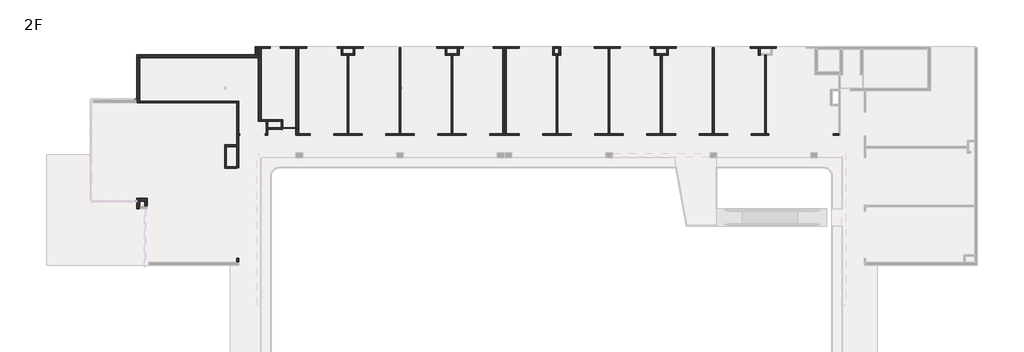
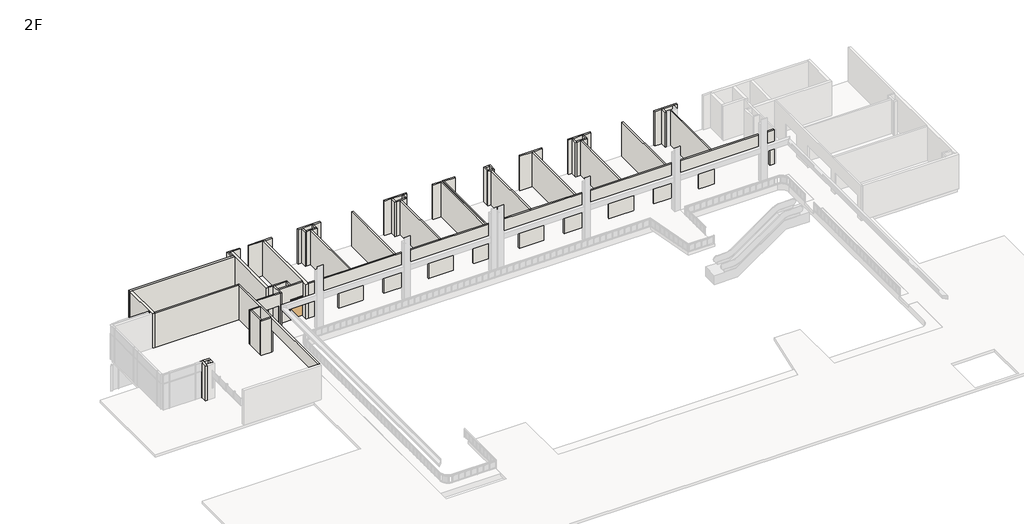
# One storey, part 4 of 6: 52 walls, 2 members, 1 door.
"""IFC4 building model written with IfcOpenShell, lengths in millimetres."""

from ifc_helpers import new_model, si_unit, frame, origin, place, context, project, spatial, polyline, outline, extrude, faceted_brep, transform, mapped, element, save
from components import m_single_flush_d_1200x2150_ee7a6381, rectangular_mullion_50_x_150mm_2bd3e109, rectangular_mullion_50_x_150mm_2578323a

model = new_model("IFC4")

# Units and contexts
model_context = context("Model", 3, world=origin())
ifc_project = project(units=[si_unit("LENGTHUNIT", "METRE", prefix="MILLI")], contexts=[model_context])

# Site, building, storey
site = spatial("IfcSite", under=ifc_project)
building = spatial("IfcBuilding", under=site)
storey = spatial("IfcBuildingStorey", under=building, Name="2F", Elevation=8100.0)

# Door
placement = place(None, origin())
m_single_flush_d_1200x2150_shape = m_single_flush_d_1200x2150_ee7a6381(model_context)
element("IfcDoor", 1, ObjectType="M_Single-Flush : D-1200x2150", at=placement, inside=storey, context=model_context, shape_type="MappedRepresentation", body=[
    mapped(m_single_flush_d_1200x2150_shape, transform((-18037.5865899, 13998.3851347, 8100.0), x_axis=(1.0, 0.0, 0.0), y_axis=(0.0, 1.0, 0.0), z_axis=(0.0, 0.0, 1.0))),
])

# Members
rectangular_mullion_50_x_150mm_shape = rectangular_mullion_50_x_150mm_2bd3e109(model_context)
element("IfcMember", 2, ObjectType="Rectangular Mullion : 50 x 150mm", at=placement, inside=storey, context=model_context, shape_type="MappedRepresentation", body=[
    mapped(rectangular_mullion_50_x_150mm_shape, transform((-31536.0865899, 7552.3851348, 10975.0), x_axis=(1.0, 0.0, 0.0), y_axis=(0.0, 1.0, 0.0), z_axis=(0.0, 0.0, 1.0))),
])
rectangular_mullion_50_x_150mm_2_shape = rectangular_mullion_50_x_150mm_2578323a(model_context)
element("IfcMember", 3, ObjectType="Rectangular Mullion : 50 x 150mm", at=placement, inside=storey, context=model_context, shape_type="MappedRepresentation", body=[
    mapped(rectangular_mullion_50_x_150mm_2_shape, transform((-31687.5865899, 16597.3851347, 11950.0), x_axis=(1.0, 0.0, 0.0), y_axis=(0.0, 1.0, 0.0), z_axis=(0.0, 0.0, 1.0))),
])

# Walls
element("IfcWall", 4, ObjectType="wall-115", at=placement, inside=storey, context=model_context, shape_type="Brep", body=[
    faceted_brep([(-4207.5865899, 21117.3851347, 8100.0), (-4207.5865899, 20487.3851347, 8100.0), (-4207.5865899, 20487.3851347, 11850.0), (-4207.5865899, 21117.3851347, 11850.0), (-4065.5865899, 21117.3851347, 8100.0), (-4065.5865899, 21117.3851347, 11850.0), (-4065.5865899, 20629.3851347, 11850.0), (-4065.5865899, 20487.3851347, 11850.0), (-4065.5865899, 20487.3851347, 8100.0), (-4065.5865899, 20629.3851347, 8100.0)], [[[0, 1, 2, 3]], [[4, 5, 6, 7, 8, 9]], [[1, 0, 4, 9, 8]], [[3, 2, 7, 6, 5]], [[2, 1, 8, 7]], [[0, 3, 5, 4]]]),
])
element("IfcWall", 5, ObjectType="wall-115", at=placement, inside=storey, context=model_context, shape_type="Brep", body=[
    faceted_brep([(-4065.5865899, 20487.3851347, 8100.0), (-3665.0865899, 20487.3851347, 8100.0), (-3523.0865899, 20487.3851347, 8100.0), (-2977.5865899, 20487.3851347, 8100.0), (-2977.5865899, 20487.3851347, 11850.0), (-3523.0865899, 20487.3851347, 11850.0), (-3665.0865899, 20487.3851347, 11850.0), (-4065.5865899, 20487.3851347, 11850.0), (-4065.5865899, 20629.3851347, 8100.0), (-4065.5865899, 20629.3851347, 11850.0), (-3119.5865899, 20629.3851347, 11850.0), (-2977.5865899, 20629.3851347, 11850.0), (-2977.5865899, 20629.3851347, 8100.0), (-3119.5865899, 20629.3851347, 8100.0)], [[[0, 1, 2, 3, 4, 5, 6, 7]], [[8, 9, 10, 11, 12, 13]], [[3, 2, 1, 0, 8, 13, 12]], [[7, 6, 5, 4, 11, 10, 9]], [[0, 7, 9, 8]], [[4, 3, 12, 11]]]),
])
element("IfcWall", 6, ObjectType="wall-115", at=placement, inside=storey, context=model_context, shape_type="SweptSolid", body=[
    extrude(outline(polyline([(-2977.5865899, 21117.3851347), (-2977.5865899, 20629.3851347), (-3119.5865899, 20629.3851347), (-3119.5865899, 21117.3851347), (-2977.5865899, 21117.3851347)])), frame((0.0, 0.0, 8100.0), z_axis=(0.0, 0.0, 1.0), x_axis=(1.0, 0.0, 0.0)), (0.0, 0.0, 1.0), 3750.0),
])
element("IfcWall", 7, ObjectType="wall-115", at=placement, inside=storey, context=model_context, shape_type="SweptSolid", body=[
    extrude(outline(polyline([(-3665.0865899, 13527.3851347), (-3665.0865899, 20487.3851347), (-3523.0865899, 20487.3851347), (-3523.0865899, 13527.3851347), (-3665.0865899, 13527.3851347)])), frame((0.0, 0.0, 8100.0), z_axis=(0.0, 0.0, 1.0), x_axis=(1.0, 0.0, 0.0)), (0.0, 0.0, 1.0), 3750.0),
])
element("IfcWall", 8, ObjectType="wall-115", at=placement, inside=storey, context=model_context, shape_type="SweptSolid", body=[
    extrude(outline(polyline([(-8280.0865899, 13527.3851347), (-8280.0865899, 21132.3851347), (-8138.0865899, 21132.3851347), (-8138.0865899, 13527.3851347), (-8280.0865899, 13527.3851347)])), frame((0.0, 0.0, 8100.0), z_axis=(0.0, 0.0, 1.0), x_axis=(1.0, 0.0, 0.0)), (0.0, 0.0, 1.0), 3750.0),
])
element("IfcWall", 9, ObjectType="wall-115", at=placement, inside=storey, context=model_context, shape_type="Brep", body=[
    faceted_brep([(-13437.5865899, 21117.3851347, 8100.0), (-13437.5865899, 20487.3851347, 8100.0), (-13437.5865899, 20487.3851347, 11850.0), (-13437.5865899, 21117.3851347, 11850.0), (-13295.5865899, 21117.3851347, 8100.0), (-13295.5865899, 21117.3851347, 11850.0), (-13295.5865899, 20629.3851347, 11850.0), (-13295.5865899, 20487.3851347, 11850.0), (-13295.5865899, 20487.3851347, 8100.0), (-13295.5865899, 20629.3851347, 8100.0)], [[[0, 1, 2, 3]], [[4, 5, 6, 7, 8, 9]], [[1, 0, 4, 9, 8]], [[3, 2, 7, 6, 5]], [[2, 1, 8, 7]], [[0, 3, 5, 4]]]),
])
element("IfcWall", 10, ObjectType="wall-115", at=placement, inside=storey, context=model_context, shape_type="Brep", body=[
    faceted_brep([(-13295.5865899, 20487.3851347, 8100.0), (-12895.0865899, 20487.3851347, 8100.0), (-12753.0865899, 20487.3851347, 8100.0), (-12207.5865899, 20487.3851347, 8100.0), (-12207.5865899, 20487.3851347, 11850.0), (-12753.0865899, 20487.3851347, 11850.0), (-12895.0865899, 20487.3851347, 11850.0), (-13295.5865899, 20487.3851347, 11850.0), (-13295.5865899, 20629.3851347, 8100.0), (-13295.5865899, 20629.3851347, 11850.0), (-12349.5865899, 20629.3851347, 11850.0), (-12207.5865899, 20629.3851347, 11850.0), (-12207.5865899, 20629.3851347, 8100.0), (-12349.5865899, 20629.3851347, 8100.0)], [[[0, 1, 2, 3, 4, 5, 6, 7]], [[8, 9, 10, 11, 12, 13]], [[3, 2, 1, 0, 8, 13, 12]], [[7, 6, 5, 4, 11, 10, 9]], [[0, 7, 9, 8]], [[4, 3, 12, 11]]]),
])
element("IfcWall", 11, ObjectType="wall-115", at=placement, inside=storey, context=model_context, shape_type="SweptSolid", body=[
    extrude(outline(polyline([(-12207.5865899, 21117.3851347), (-12207.5865899, 20629.3851347), (-12349.5865899, 20629.3851347), (-12349.5865899, 21117.3851347), (-12207.5865899, 21117.3851347)])), frame((0.0, 0.0, 8100.0), z_axis=(0.0, 0.0, 1.0), x_axis=(1.0, 0.0, 0.0)), (0.0, 0.0, 1.0), 3750.0),
])
element("IfcWall", 12, ObjectType="wall-115", at=placement, inside=storey, context=model_context, shape_type="SweptSolid", body=[
    extrude(outline(polyline([(-12895.0865899, 13527.3851347), (-12895.0865899, 20487.3851347), (-12753.0865899, 20487.3851347), (-12753.0865899, 13527.3851347), (-12895.0865899, 13527.3851347)])), frame((0.0, 0.0, 8100.0), z_axis=(0.0, 0.0, 1.0), x_axis=(1.0, 0.0, 0.0)), (0.0, 0.0, 1.0), 3750.0),
])
element("IfcWall", 13, ObjectType="wall-115", at=placement, inside=storey, context=model_context, shape_type="Brep", body=[
    faceted_brep([(-22525.5865899, 2142.3851347, 8100.0), (-22525.5865899, 2497.4013413, 8100.0), (-22525.5865899, 2497.4013413, 10500.0), (-22525.5865899, 10497.4013413, 10500.0), (-22525.5865899, 10497.4013413, 8100.0), (-22525.5865899, 13382.3851347, 8100.0), (-22525.5865899, 13524.3851347, 8100.0), (-22525.5865899, 16422.3851347, 8100.0), (-22525.5865899, 16422.3851347, 11850.0), (-22525.5865899, 13524.3851347, 11850.0), (-22525.5865899, 13382.3851347, 11850.0), (-22525.5865899, 2142.3851347, 11850.0), (-22667.5865899, 2497.4013413, 10500.0), (-22667.5865899, 2497.4013413, 8100.0), (-22667.5865899, 2142.3851347, 8100.0), (-22667.5865899, 2142.3851347, 11850.0), (-22667.5865899, 10482.4013413, 11850.0), (-22667.5865899, 10624.4013413, 11850.0), (-22667.5865899, 12397.3851348, 11850.0), (-22667.5865899, 12539.3851348, 11850.0), (-22667.5865899, 16280.3851347, 11850.0), (-22667.5865899, 16422.3851347, 11850.0), (-22667.5865899, 16422.3851347, 8100.0), (-22667.5865899, 16280.3851347, 8100.0), (-22667.5865899, 12539.3851348, 8100.0), (-22667.5865899, 12397.3851348, 8100.0), (-22667.5865899, 10624.4013413, 8100.0), (-22667.5865899, 10497.4013413, 8100.0), (-22667.5865899, 10497.4013413, 10500.0)], [[[0, 1, 2, 3, 4, 5, 6, 7, 8, 9, 10, 11]], [[12, 13, 14, 15, 16, 17, 18, 19, 20, 21, 22, 23, 24, 25, 26, 27, 28]], [[14, 13, 1, 0]], [[27, 26, 25, 24, 23, 22, 7, 6, 5, 4]], [[11, 10, 9, 8, 21, 20, 19, 18, 17, 16, 15]], [[8, 7, 22, 21]], [[0, 11, 15, 14]], [[3, 2, 12, 28]], [[4, 3, 28, 27]], [[2, 1, 13, 12]]]),
])
element("IfcWall", 14, ObjectType="wall-115", at=placement, inside=storey, context=model_context, shape_type="Brep", body=[
    faceted_brep([(-22667.5865899, 10624.4013413, 8100.0), (-23605.5865898, 10624.4013413, 8100.0), (-23747.5865898, 10624.4013413, 8100.0), (-23747.5865898, 10624.4013413, 11850.0), (-23605.5865898, 10624.4013413, 11850.0), (-22667.5865899, 10624.4013413, 11850.0), (-22667.5865899, 10482.4013413, 8100.0), (-22667.5865899, 10482.4013413, 11850.0), (-23747.5865898, 10482.4013413, 11850.0), (-23747.5865898, 10482.4013413, 8100.0), (-22667.5865899, 10497.4013413, 8100.0)], [[[0, 1, 2, 3, 4, 5]], [[6, 7, 8, 9]], [[2, 1, 0, 10, 6, 9]], [[5, 4, 3, 8, 7]], [[3, 2, 9, 8]], [[0, 5, 7, 6, 10]]]),
])
element("IfcWall", 15, ObjectType="wall-115", at=placement, inside=storey, context=model_context, shape_type="SweptSolid", body=[
    extrude(outline(polyline([(-23605.5865898, 12397.3851348), (-23605.5865898, 10624.4013413), (-23747.5865898, 10624.4013413), (-23747.5865898, 12397.3851348), (-23605.5865898, 12397.3851348)])), frame((0.0, 0.0, 8100.0), z_axis=(0.0, 0.0, 1.0), x_axis=(1.0, 0.0, 0.0)), (0.0, 0.0, 1.0), 3750.0),
])
element("IfcWall", 16, ObjectType="wall-115", at=placement, inside=storey, context=model_context, shape_type="Brep", body=[
    faceted_brep([(-22667.5865899, 12539.3851348, 8100.0), (-23747.5865898, 12539.3851348, 8100.0), (-23747.5865898, 12539.3851348, 11850.0), (-22667.5865899, 12539.3851348, 11850.0), (-22667.5865899, 12397.3851348, 8100.0), (-22667.5865899, 12397.3851348, 11850.0), (-23605.5865898, 12397.3851348, 11850.0), (-23747.5865898, 12397.3851348, 11850.0), (-23747.5865898, 12397.3851348, 8100.0), (-23605.5865898, 12397.3851348, 8100.0)], [[[0, 1, 2, 3]], [[4, 5, 6, 7, 8, 9]], [[1, 0, 4, 9, 8]], [[3, 2, 7, 6, 5]], [[2, 1, 8, 7]], [[0, 3, 5, 4]]]),
])
element("IfcWall", 17, ObjectType="wall-115", at=placement, inside=storey, context=model_context, shape_type="Brep", body=[
    faceted_brep([(-19940.5865899, 13382.3851347, 8100.0), (-19940.5865899, 13927.3851347, 8100.0), (-19940.5865899, 14069.3851347, 8100.0), (-19940.5865899, 14645.3851347, 8100.0), (-19940.5865899, 14645.3851347, 11850.0), (-19940.5865899, 14069.3851347, 11850.0), (-19940.5865899, 13927.3851347, 11850.0), (-19940.5865899, 13382.3851347, 11850.0), (-20082.5865899, 13382.3851347, 8100.0), (-20082.5865899, 13382.3851347, 11850.0), (-20082.5865899, 13524.3851347, 11850.0), (-20082.5865899, 14645.3851347, 11850.0), (-20082.5865899, 14645.3851347, 8100.0), (-20082.5865899, 13524.3851347, 8100.0)], [[[0, 1, 2, 3, 4, 5, 6, 7]], [[8, 9, 10, 11, 12, 13]], [[3, 2, 1, 0, 8, 13, 12]], [[7, 6, 5, 4, 11, 10, 9]], [[0, 7, 9, 8]], [[4, 3, 12, 11]]]),
])
element("IfcWall", 18, ObjectType="wall-115", at=placement, inside=storey, context=model_context, shape_type="SweptSolid", body=[
    extrude(outline(polyline([(24099.9134101, 13527.3851347), (24099.9134101, 20487.3851347), (24241.9134101, 20487.3851347), (24241.9134101, 13527.3851347), (24099.9134101, 13527.3851347)])), frame((0.0, 0.0, 8100.0), z_axis=(0.0, 0.0, 1.0), x_axis=(1.0, 0.0, 0.0)), (0.0, 0.0, 1.0), 3750.0),
])
element("IfcWall", 19, ObjectType="wall-115", at=placement, inside=storey, context=model_context, shape_type="SweptSolid", body=[
    extrude(outline(polyline([(19484.9134101, 13527.3851347), (19484.9134101, 21132.3851347), (19626.9134101, 21132.3851347), (19626.9134101, 13527.3851347), (19484.9134101, 13527.3851347)])), frame((0.0, 0.0, 8100.0), z_axis=(0.0, 0.0, 1.0), x_axis=(1.0, 0.0, 0.0)), (0.0, 0.0, 1.0), 3750.0),
])
element("IfcWall", 20, ObjectType="wall-115", at=placement, inside=storey, context=model_context, shape_type="SweptSolid", body=[
    extrude(outline(polyline([(14869.9134101, 13527.3851347), (14869.9134101, 20487.3851347), (15011.9134101, 20487.3851347), (15011.9134101, 13527.3851347), (14869.9134101, 13527.3851347)])), frame((0.0, 0.0, 8100.0), z_axis=(0.0, 0.0, 1.0), x_axis=(1.0, 0.0, 0.0)), (0.0, 0.0, 1.0), 3750.0),
])
element("IfcWall", 21, ObjectType="wall-115", at=placement, inside=storey, context=model_context, shape_type="SweptSolid", body=[
    extrude(outline(polyline([(10254.9134101, 13527.3851347), (10254.9134101, 21117.3851347), (10396.9134101, 21117.3851347), (10396.9134101, 13527.3851347), (10254.9134101, 13527.3851347)])), frame((0.0, 0.0, 8100.0), z_axis=(0.0, 0.0, 1.0), x_axis=(1.0, 0.0, 0.0)), (0.0, 0.0, 1.0), 3750.0),
])
element("IfcWall", 22, ObjectType="wall-115", at=placement, inside=storey, context=model_context, shape_type="SweptSolid", body=[
    extrude(outline(polyline([(5639.9134101, 13527.3851347), (5639.9134101, 20487.3851347), (5781.9134101, 20487.3851347), (5781.9134101, 13527.3851347), (5639.9134101, 13527.3851347)])), frame((0.0, 0.0, 8100.0), z_axis=(0.0, 0.0, 1.0), x_axis=(1.0, 0.0, 0.0)), (0.0, 0.0, 1.0), 3750.0),
])
element("IfcWall", 23, ObjectType="wall-115", at=placement, inside=storey, context=model_context, shape_type="Brep", body=[
    faceted_brep([(1082.4134101, 21259.3851347, 8100.0), (1082.4134101, 13527.3851347, 8100.0), (1082.4134101, 13527.3851347, 11850.0), (1082.4134101, 21259.3851347, 11850.0), (1224.4134101, 21259.3851347, 8100.0), (1224.4134101, 21259.3851347, 11850.0), (1224.4134101, 21117.3851347, 11850.0), (1224.4134101, 13527.3851347, 11850.0), (1224.4134101, 13527.3851347, 8100.0), (1224.4134101, 21117.3851347, 8100.0)], [[[0, 1, 2, 3]], [[4, 5, 6, 7, 8, 9]], [[1, 0, 4, 9, 8]], [[3, 2, 7, 6, 5]], [[0, 3, 5, 4]], [[2, 1, 8, 7]]]),
])
element("IfcWall", 24, ObjectType="wall-115", at=placement, inside=storey, context=model_context, shape_type="Brep", body=[
    faceted_brep([(14327.4134101, 21117.3851347, 8100.0), (14327.4134101, 20487.3851347, 8100.0), (14327.4134101, 20487.3851347, 11850.0), (14327.4134101, 21117.3851347, 11850.0), (14469.4134101, 21117.3851347, 8100.0), (14469.4134101, 21117.3851347, 11850.0), (14469.4134101, 20629.3851347, 11850.0), (14469.4134101, 20487.3851347, 11850.0), (14469.4134101, 20487.3851347, 8100.0), (14469.4134101, 20629.3851347, 8100.0)], [[[0, 1, 2, 3]], [[4, 5, 6, 7, 8, 9]], [[1, 0, 4, 9, 8]], [[3, 2, 7, 6, 5]], [[2, 1, 8, 7]], [[0, 3, 5, 4]]]),
])
element("IfcWall", 25, ObjectType="wall-115", at=placement, inside=storey, context=model_context, shape_type="Brep", body=[
    faceted_brep([(14469.4134101, 20487.3851347, 8100.0), (14869.9134101, 20487.3851347, 8100.0), (15011.9134101, 20487.3851347, 8100.0), (15557.4134101, 20487.3851347, 8100.0), (15557.4134101, 20487.3851347, 11850.0), (15011.9134101, 20487.3851347, 11850.0), (14869.9134101, 20487.3851347, 11850.0), (14469.4134101, 20487.3851347, 11850.0), (14469.4134101, 20629.3851347, 8100.0), (14469.4134101, 20629.3851347, 11850.0), (15415.4134101, 20629.3851347, 11850.0), (15557.4134101, 20629.3851347, 11850.0), (15557.4134101, 20629.3851347, 8100.0), (15415.4134101, 20629.3851347, 8100.0)], [[[0, 1, 2, 3, 4, 5, 6, 7]], [[8, 9, 10, 11, 12, 13]], [[3, 2, 1, 0, 8, 13, 12]], [[7, 6, 5, 4, 11, 10, 9]], [[4, 3, 12, 11]], [[0, 7, 9, 8]]]),
])
element("IfcWall", 26, ObjectType="wall-115", at=placement, inside=storey, context=model_context, shape_type="SweptSolid", body=[
    extrude(outline(polyline([(15557.4134101, 21117.3851347), (15557.4134101, 20629.3851347), (15415.4134101, 20629.3851347), (15415.4134101, 21117.3851347), (15557.4134101, 21117.3851347)])), frame((0.0, 0.0, 8100.0), z_axis=(0.0, 0.0, 1.0), x_axis=(1.0, 0.0, 0.0)), (0.0, 0.0, 1.0), 3750.0),
])
element("IfcWall", 27, ObjectType="wall-115", at=placement, inside=storey, context=model_context, shape_type="Brep", body=[
    faceted_brep([(23557.4134101, 21117.3851347, 8100.0), (23557.4134101, 20487.3851347, 8100.0), (23557.4134101, 20487.3851347, 11850.0), (23557.4134101, 21117.3851347, 11850.0), (23699.4134101, 21117.3851347, 8100.0), (23699.4134101, 21117.3851347, 11850.0), (23699.4134101, 20629.3851347, 11850.0), (23699.4134101, 20487.3851347, 11850.0), (23699.4134101, 20487.3851347, 8100.0), (23699.4134101, 20629.3851347, 8100.0)], [[[0, 1, 2, 3]], [[4, 5, 6, 7, 8, 9]], [[1, 0, 4, 9, 8]], [[3, 2, 7, 6, 5]], [[2, 1, 8, 7]], [[0, 3, 5, 4]]]),
])
element("IfcWall", 28, ObjectType="wall-115", at=placement, inside=storey, context=model_context, shape_type="Brep", body=[
    faceted_brep([(5334.9134101, 20487.3851347, 8100.0), (5639.9134101, 20487.3851347, 8100.0), (5781.9134101, 20487.3851347, 8100.0), (6014.9134101, 20487.3851347, 8100.0), (6014.9134101, 20487.3851347, 11850.0), (5781.9134101, 20487.3851347, 11850.0), (5639.9134101, 20487.3851347, 11850.0), (5334.9134101, 20487.3851347, 11850.0), (5334.9134101, 20629.3851347, 8100.0), (5334.9134101, 20629.3851347, 11850.0), (5476.9134101, 20629.3851347, 11850.0), (5872.9134101, 20629.3851347, 11850.0), (6014.9134101, 20629.3851347, 11850.0), (6014.9134101, 20629.3851347, 8100.0), (5872.9134101, 20629.3851347, 8100.0), (5476.9134101, 20629.3851347, 8100.0)], [[[0, 1, 2, 3, 4, 5, 6, 7]], [[8, 9, 10, 11, 12, 13, 14, 15]], [[3, 2, 1, 0, 8, 15, 14, 13]], [[7, 6, 5, 4, 12, 11, 10, 9]], [[0, 7, 9, 8]], [[4, 3, 13, 12]]]),
])
element("IfcWall", 29, ObjectType="wall-115", at=placement, inside=storey, context=model_context, shape_type="Brep", body=[
    faceted_brep([(892.4134101, 21259.3851347, 8100.0), (892.4134101, 21117.3851347, 8100.0), (892.4134101, 13527.3851347, 8100.0), (892.4134101, 13527.3851347, 11850.0), (892.4134101, 21117.3851347, 11850.0), (892.4134101, 21259.3851347, 11850.0), (1034.4134101, 21259.3851347, 8100.0), (1034.4134101, 21259.3851347, 11850.0), (1034.4134101, 13527.3851347, 11850.0), (1034.4134101, 13527.3851347, 8100.0)], [[[0, 1, 2, 3, 4, 5]], [[6, 7, 8, 9]], [[2, 1, 0, 6, 9]], [[5, 4, 3, 8, 7]], [[0, 5, 7, 6]], [[3, 2, 9, 8]]]),
])
element("IfcWall", 30, ObjectType="wall-115", at=placement, inside=storey, context=model_context, shape_type="Brep", body=[
    faceted_brep([(22905.8361451, 13385.3851347, 8100.0), (24472.4134101, 13385.3851347, 8100.0), (24472.4134101, 13385.3851347, 10500.0), (30187.4134101, 13385.3851347, 10500.0), (30187.4134101, 13385.3851347, 8100.0), (30657.4134101, 13385.3851347, 8100.0), (30657.4134101, 13385.3851347, 11850.0), (-17192.5865899, 13385.3851347, 11850.0), (-17192.5865899, 13385.3851347, 8100.0), (-16171.0093248, 13385.3851347, 8100.0), (-16171.0093248, 13385.3851347, 10500.0), (-14089.1638549, 13385.3851347, 10500.0), (-14089.1638549, 13385.3851347, 8100.0), (-11556.0093248, 13385.3851347, 8100.0), (-11556.0093248, 13385.3851347, 10500.0), (-9474.1638549, 13385.3851347, 10500.0), (-9474.1638549, 13385.3851347, 8100.0), (-6941.0093248, 13385.3851347, 8100.0), (-6941.0093248, 13385.3851347, 10500.0), (-4859.1638549, 13385.3851347, 10500.0), (-4859.1638549, 13385.3851347, 8100.0), (-2326.0093248, 13385.3851347, 8100.0), (-2326.0093248, 13385.3851347, 10500.0), (-244.1638549, 13385.3851347, 10500.0), (-244.1638549, 13385.3851347, 8100.0), (2363.9906752, 13385.3851347, 8100.0), (2363.9906752, 13385.3851347, 10500.0), (4445.8361451, 13385.3851347, 10500.0), (4445.8361451, 13385.3851347, 8100.0), (6978.9906752, 13385.3851347, 8100.0), (6978.9906752, 13385.3851347, 10500.0), (9060.8361451, 13385.3851347, 10500.0), (9060.8361451, 13385.3851347, 8100.0), (11593.9906752, 13385.3851347, 8100.0), (11593.9906752, 13385.3851347, 10500.0), (13675.8361451, 13385.3851347, 10500.0), (13675.8361451, 13385.3851347, 8100.0), (16208.9906752, 13385.3851347, 8100.0), (16208.9906752, 13385.3851347, 10500.0), (18290.8361451, 13385.3851347, 10500.0), (18290.8361451, 13385.3851347, 8100.0), (20823.9906752, 13385.3851347, 8100.0), (20823.9906752, 13385.3851347, 10500.0), (22905.8361451, 13385.3851347, 10500.0), (24472.4134101, 13527.3851347, 10500.0), (24472.4134101, 13527.3851347, 8100.0), (24241.9134101, 13527.3851347, 8100.0), (24099.9134101, 13527.3851347, 8100.0), (22905.8361451, 13527.3851347, 8100.0), (22905.8361451, 13527.3851347, 10500.0), (20823.9906752, 13527.3851347, 10500.0), (20823.9906752, 13527.3851347, 8100.0), (19626.9134101, 13527.3851347, 8100.0), (19484.9134101, 13527.3851347, 8100.0), (18290.8361451, 13527.3851347, 8100.0), (18290.8361451, 13527.3851347, 10500.0), (16208.9906752, 13527.3851347, 10500.0), (16208.9906752, 13527.3851347, 8100.0), (15011.9134101, 13527.3851347, 8100.0), (14869.9134101, 13527.3851347, 8100.0), (13675.8361451, 13527.3851347, 8100.0), (13675.8361451, 13527.3851347, 10500.0), (11593.9906752, 13527.3851347, 10500.0), (11593.9906752, 13527.3851347, 8100.0), (10396.9134101, 13527.3851347, 8100.0), (10254.9134101, 13527.3851347, 8100.0), (9060.8361451, 13527.3851347, 8100.0), (9060.8361451, 13527.3851347, 10500.0), (6978.9906752, 13527.3851347, 10500.0), (6978.9906752, 13527.3851347, 8100.0), (5781.9134101, 13527.3851347, 8100.0), (5639.9134101, 13527.3851347, 8100.0), (4445.8361451, 13527.3851347, 8100.0), (4445.8361451, 13527.3851347, 10500.0), (2363.9906752, 13527.3851347, 10500.0), (2363.9906752, 13527.3851347, 8100.0), (1224.4134101, 13527.3851347, 8100.0), (1082.4134101, 13527.3851347, 8100.0), (1034.4134101, 13527.3851347, 8100.0), (892.4134101, 13527.3851347, 8100.0), (-244.1638549, 13527.3851347, 8100.0), (-244.1638549, 13527.3851347, 10500.0), (-2326.0093248, 13527.3851347, 10500.0), (-2326.0093248, 13527.3851347, 8100.0), (-3523.0865899, 13527.3851347, 8100.0), (-3665.0865899, 13527.3851347, 8100.0), (-4859.1638549, 13527.3851347, 8100.0), (-4859.1638549, 13527.3851347, 10500.0), (-6941.0093248, 13527.3851347, 10500.0), (-6941.0093248, 13527.3851347, 8100.0), (-8138.0865899, 13527.3851347, 8100.0), (-8280.0865899, 13527.3851347, 8100.0), (-9474.1638549, 13527.3851347, 8100.0), (-9474.1638549, 13527.3851347, 10500.0), (-11556.0093248, 13527.3851347, 10500.0), (-11556.0093248, 13527.3851347, 8100.0), (-12753.0865899, 13527.3851347, 8100.0), (-12895.0865899, 13527.3851347, 8100.0), (-14089.1638549, 13527.3851347, 8100.0), (-14089.1638549, 13527.3851347, 10500.0), (-16171.0093248, 13527.3851347, 10500.0), (-16171.0093248, 13527.3851347, 8100.0), (-17192.5865899, 13527.3851347, 8100.0), (-17192.5865899, 13527.3851347, 11850.0), (-12895.0865899, 13527.3851347, 11850.0), (-12753.0865899, 13527.3851347, 11850.0), (-8280.0865899, 13527.3851347, 11850.0), (-8138.0865899, 13527.3851347, 11850.0), (-3665.0865899, 13527.3851347, 11850.0), (-3523.0865899, 13527.3851347, 11850.0), (892.4134101, 13527.3851347, 11850.0), (1034.4134101, 13527.3851347, 11850.0), (1082.4134101, 13527.3851347, 11850.0), (1224.4134101, 13527.3851347, 11850.0), (5639.9134101, 13527.3851347, 11850.0), (5781.9134101, 13527.3851347, 11850.0), (10254.9134101, 13527.3851347, 11850.0), (10396.9134101, 13527.3851347, 11850.0), (14869.9134101, 13527.3851347, 11850.0), (15011.9134101, 13527.3851347, 11850.0), (19484.9134101, 13527.3851347, 11850.0), (19626.9134101, 13527.3851347, 11850.0), (24099.9134101, 13527.3851347, 11850.0), (24241.9134101, 13527.3851347, 11850.0), (30657.4134101, 13527.3851347, 11850.0), (30657.4134101, 13527.3851347, 8100.0), (30187.4134101, 13527.3851347, 8100.0), (30187.4134101, 13527.3851347, 10500.0)], [[[0, 1, 2, 3, 4, 5, 6, 7, 8, 9, 10, 11, 12, 13, 14, 15, 16, 17, 18, 19, 20, 21, 22, 23, 24, 25, 26, 27, 28, 29, 30, 31, 32, 33, 34, 35, 36, 37, 38, 39, 40, 41, 42, 43]], [[44, 45, 46, 47, 48, 49, 50, 51, 52, 53, 54, 55, 56, 57, 58, 59, 60, 61, 62, 63, 64, 65, 66, 67, 68, 69, 70, 71, 72, 73, 74, 75, 76, 77, 78, 79, 80, 81, 82, 83, 84, 85, 86, 87, 88, 89, 90, 91, 92, 93, 94, 95, 96, 97, 98, 99, 100, 101, 102, 103, 104, 105, 106, 107, 108, 109, 110, 111, 112, 113, 114, 115, 116, 117, 118, 119, 120, 121, 122, 123, 124, 125, 126, 127]], [[102, 101, 9, 8]], [[92, 91, 90, 89, 17, 16]], [[98, 97, 96, 95, 13, 12]], [[86, 85, 84, 83, 21, 20]], [[80, 79, 78, 77, 76, 75, 25, 24]], [[72, 71, 70, 69, 29, 28]], [[66, 65, 64, 63, 33, 32]], [[60, 59, 58, 57, 37, 36]], [[54, 53, 52, 51, 41, 40]], [[48, 47, 46, 45, 1, 0]], [[126, 125, 5, 4]], [[7, 6, 124, 123, 122, 121, 120, 119, 118, 117, 116, 115, 114, 113, 112, 111, 110, 109, 108, 107, 106, 105, 104, 103]], [[6, 5, 125, 124]], [[8, 7, 103, 102]], [[15, 14, 94, 93]], [[16, 15, 93, 92]], [[14, 13, 95, 94]], [[11, 10, 100, 99]], [[12, 11, 99, 98]], [[10, 9, 101, 100]], [[19, 18, 88, 87]], [[20, 19, 87, 86]], [[18, 17, 89, 88]], [[23, 22, 82, 81]], [[24, 23, 81, 80]], [[22, 21, 83, 82]], [[27, 26, 74, 73]], [[28, 27, 73, 72]], [[26, 25, 75, 74]], [[31, 30, 68, 67]], [[32, 31, 67, 66]], [[30, 29, 69, 68]], [[35, 34, 62, 61]], [[36, 35, 61, 60]], [[34, 33, 63, 62]], [[39, 38, 56, 55]], [[40, 39, 55, 54]], [[38, 37, 57, 56]], [[43, 42, 50, 49]], [[0, 43, 49, 48]], [[42, 41, 51, 50]], [[3, 2, 44, 127]], [[4, 3, 127, 126]], [[2, 1, 45, 44]]]),
])
element("IfcWall", 31, ObjectType="wall-115", at=placement, inside=storey, context=model_context, shape_type="SweptSolid", body=[
    extrude(outline(polyline([(-22667.5865899, 16280.3851347), (-31292.5865899, 16280.3851347), (-31292.5865899, 16422.3851347), (-22667.5865899, 16422.3851347), (-22667.5865899, 16280.3851347)])), frame((0.0, 0.0, 8100.0), z_axis=(0.0, 0.0, 1.0), x_axis=(1.0, 0.0, 0.0)), (0.0, 0.0, 1.0), 3750.0),
])
element("IfcWall", 32, ObjectType="wall-115", at=placement, inside=storey, context=model_context, shape_type="Brep", body=[
    faceted_brep([(-20909.0865899, 21117.3851347, 8100.0), (-20782.5865899, 21117.3851347, 8100.0), (-20525.5865899, 21117.3851347, 8100.0), (-19737.5865899, 21117.3851347, 8100.0), (-19737.5865899, 21117.3851347, 11850.0), (-20525.5865899, 21117.3851347, 11850.0), (-20782.5865899, 21117.3851347, 11850.0), (-20909.0865899, 21117.3851347, 11850.0), (-20909.0865899, 21259.3851347, 8100.0), (-20909.0865899, 21259.3851347, 11850.0), (-19737.5865899, 21259.3851347, 11850.0), (-19737.5865899, 21259.3851347, 8100.0)], [[[0, 1, 2, 3, 4, 5, 6, 7]], [[8, 9, 10, 11]], [[3, 2, 1, 0, 8, 11]], [[4, 3, 11, 10]], [[7, 6, 5, 4, 10, 9]], [[0, 7, 9, 8]]]),
])
element("IfcWall", 33, ObjectType="wall-115", at=placement, inside=storey, context=model_context, shape_type="Brep", body=[
    faceted_brep([(-4937.5865899, 21117.3851347, 8100.0), (-4207.5865899, 21117.3851347, 8100.0), (-4065.5865899, 21117.3851347, 8100.0), (-3119.5865899, 21117.3851347, 8100.0), (-2977.5865899, 21117.3851347, 8100.0), (-2617.5865899, 21117.3851347, 8100.0), (-2617.5865899, 21117.3851347, 11850.0), (-2977.5865899, 21117.3851347, 11850.0), (-3119.5865899, 21117.3851347, 11850.0), (-4065.5865899, 21117.3851347, 11850.0), (-4207.5865899, 21117.3851347, 11850.0), (-4937.5865899, 21117.3851347, 11850.0), (-4937.5865899, 21259.3851347, 8100.0), (-4937.5865899, 21259.3851347, 11850.0), (-2617.5865899, 21259.3851347, 11850.0), (-2617.5865899, 21259.3851347, 8100.0)], [[[0, 1, 2, 3, 4, 5, 6, 7, 8, 9, 10, 11]], [[12, 13, 14, 15]], [[5, 4, 3, 2, 1, 0, 12, 15]], [[6, 5, 15, 14]], [[11, 10, 9, 8, 7, 6, 14, 13]], [[0, 11, 13, 12]]]),
])
element("IfcWall", 34, ObjectType="wall-115", at=placement, inside=storey, context=model_context, shape_type="Brep", body=[
    faceted_brep([(13967.4134101, 21117.3851347, 8100.0), (14327.4134101, 21117.3851347, 8100.0), (14469.4134101, 21117.3851347, 8100.0), (15415.4134101, 21117.3851347, 8100.0), (15557.4134101, 21117.3851347, 8100.0), (16287.4134101, 21117.3851347, 8100.0), (16287.4134101, 21117.3851347, 11850.0), (15557.4134101, 21117.3851347, 11850.0), (15415.4134101, 21117.3851347, 11850.0), (14469.4134101, 21117.3851347, 11850.0), (14327.4134101, 21117.3851347, 11850.0), (13967.4134101, 21117.3851347, 11850.0), (13967.4134101, 21259.3851347, 8100.0), (13967.4134101, 21259.3851347, 11850.0), (16287.4134101, 21259.3851347, 11850.0), (16287.4134101, 21259.3851347, 8100.0)], [[[0, 1, 2, 3, 4, 5, 6, 7, 8, 9, 10, 11]], [[12, 13, 14, 15]], [[5, 4, 3, 2, 1, 0, 12, 15]], [[6, 5, 15, 14]], [[11, 10, 9, 8, 7, 6, 14, 13]], [[0, 11, 13, 12]]]),
])
element("IfcWall", 35, ObjectType="wall-115", at=placement, inside=storey, context=model_context, shape_type="Brep", body=[
    faceted_brep([(22827.4134101, 21117.3851347, 8100.0), (23557.4134101, 21117.3851347, 8100.0), (23699.4134101, 21117.3851347, 8100.0), (24645.4134101, 21117.3851347, 8100.0), (24787.4134101, 21117.3851347, 8100.0), (25147.4134101, 21117.3851347, 8100.0), (25147.4134101, 21117.3851347, 11850.0), (24787.4134101, 21117.3851347, 11850.0), (24645.4134101, 21117.3851347, 11850.0), (23699.4134101, 21117.3851347, 11850.0), (23557.4134101, 21117.3851347, 11850.0), (22827.4134101, 21117.3851347, 11850.0), (22827.4134101, 21259.3851347, 8100.0), (22827.4134101, 21259.3851347, 11850.0), (25147.4134101, 21259.3851347, 11850.0), (25147.4134101, 21259.3851347, 8100.0)], [[[0, 1, 2, 3, 4, 5, 6, 7, 8, 9, 10, 11]], [[12, 13, 14, 15]], [[5, 4, 3, 2, 1, 0, 12, 15]], [[6, 5, 15, 14]], [[11, 10, 9, 8, 7, 6, 14, 13]], [[0, 11, 13, 12]]]),
])
element("IfcWall", 36, ObjectType="wall-115", at=placement, inside=storey, context=model_context, shape_type="Brep", body=[
    faceted_brep([(-13797.5865899, 21117.3851347, 8100.0), (-13437.5865899, 21117.3851347, 8100.0), (-13295.5865899, 21117.3851347, 8100.0), (-12349.5865899, 21117.3851347, 8100.0), (-12207.5865899, 21117.3851347, 8100.0), (-11477.5865899, 21117.3851347, 8100.0), (-11477.5865899, 21117.3851347, 11850.0), (-12207.5865899, 21117.3851347, 11850.0), (-12349.5865899, 21117.3851347, 11850.0), (-13295.5865899, 21117.3851347, 11850.0), (-13437.5865899, 21117.3851347, 11850.0), (-13797.5865899, 21117.3851347, 11850.0), (-13797.5865899, 21259.3851347, 8100.0), (-13797.5865899, 21259.3851347, 11850.0), (-11477.5865899, 21259.3851347, 11850.0), (-11477.5865899, 21259.3851347, 8100.0)], [[[0, 1, 2, 3, 4, 5, 6, 7, 8, 9, 10, 11]], [[12, 13, 14, 15]], [[5, 4, 3, 2, 1, 0, 12, 15]], [[6, 5, 15, 14]], [[11, 10, 9, 8, 7, 6, 14, 13]], [[0, 11, 13, 12]]]),
])
element("IfcWall", 37, ObjectType="wall-115", at=placement, inside=storey, context=model_context, shape_type="SweptSolid", body=[
    extrude(outline(polyline([(892.4134101, 21117.3851347), (47.4134101, 21117.3851347), (47.4134101, 21259.3851347), (892.4134101, 21259.3851347), (892.4134101, 21117.3851347)])), frame((0.0, 0.0, 8100.0), z_axis=(0.0, 0.0, 1.0), x_axis=(1.0, 0.0, 0.0)), (0.0, 0.0, 1.0), 3750.0),
])
element("IfcWall", 38, ObjectType="wall-115", at=placement, inside=storey, context=model_context, shape_type="SweptSolid", body=[
    extrude(outline(polyline([(1224.4134101, 21259.3851347), (2367.4134101, 21259.3851347), (2367.4134101, 21117.3851347), (1224.4134101, 21117.3851347), (1224.4134101, 21259.3851347)])), frame((0.0, 0.0, 8100.0), z_axis=(0.0, 0.0, 1.0), x_axis=(1.0, 0.0, 0.0)), (0.0, 0.0, 1.0), 3750.0),
])
element("IfcWall", 39, ObjectType="wall-115", at=placement, inside=storey, context=model_context, shape_type="Brep", body=[
    faceted_brep([(11302.4134101, 21259.3851347, 8100.0), (8982.4134101, 21259.3851347, 8100.0), (8982.4134101, 21259.3851347, 11850.0), (11302.4134101, 21259.3851347, 11850.0), (11302.4134101, 21117.3851347, 8100.0), (11302.4134101, 21117.3851347, 11850.0), (10396.9134101, 21117.3851347, 11850.0), (10254.9134101, 21117.3851347, 11850.0), (8982.4134101, 21117.3851347, 11850.0), (8982.4134101, 21117.3851347, 8100.0), (10254.9134101, 21117.3851347, 8100.0), (10396.9134101, 21117.3851347, 8100.0)], [[[0, 1, 2, 3]], [[4, 5, 6, 7, 8, 9, 10, 11]], [[1, 0, 4, 11, 10, 9]], [[2, 1, 9, 8]], [[3, 2, 8, 7, 6, 5]], [[0, 3, 5, 4]]]),
])
element("IfcWall", 40, ObjectType="wall-115", at=placement, inside=storey, context=model_context, shape_type="Brep", body=[
    faceted_brep([(-18837.5865899, 21117.3851347, 8100.0), (-17449.5865899, 21117.3851347, 8100.0), (-17192.5865899, 21117.3851347, 8100.0), (-16462.5865899, 21117.3851347, 8100.0), (-16462.5865899, 21117.3851347, 11850.0), (-17192.5865899, 21117.3851347, 11850.0), (-17449.5865899, 21117.3851347, 11850.0), (-18837.5865899, 21117.3851347, 11850.0), (-18837.5865899, 21259.3851347, 8100.0), (-18837.5865899, 21259.3851347, 11850.0), (-16462.5865899, 21259.3851347, 11850.0), (-16462.5865899, 21259.3851347, 8100.0)], [[[0, 1, 2, 3, 4, 5, 6, 7]], [[8, 9, 10, 11]], [[3, 2, 1, 0, 8, 11]], [[4, 3, 11, 10]], [[7, 6, 5, 4, 10, 9]], [[0, 7, 9, 8]]]),
])
element("IfcWall", 41, ObjectType="wall-115", at=placement, inside=storey, context=model_context, shape_type="Brep", body=[
    faceted_brep([(-21051.0865899, 21259.3851347, 8100.0), (-21051.0865899, 20534.3851347, 8100.0), (-21051.0865899, 20534.3851347, 11850.0), (-21051.0865899, 21259.3851347, 11850.0), (-20909.0865899, 21259.3851347, 8100.0), (-20909.0865899, 21259.3851347, 11850.0), (-20909.0865899, 21117.3851347, 11850.0), (-20909.0865899, 20534.3851347, 11850.0), (-20909.0865899, 20534.3851347, 8100.0), (-20909.0865899, 21117.3851347, 8100.0)], [[[0, 1, 2, 3]], [[4, 5, 6, 7, 8, 9]], [[1, 0, 4, 9, 8]], [[3, 2, 7, 6, 5]], [[0, 3, 5, 4]], [[2, 1, 8, 7]]]),
])
element("IfcWall", 42, ObjectType="wall-115", at=placement, inside=storey, context=model_context, shape_type="Brep", body=[
    faceted_brep([(5334.9134101, 21259.3851347, 8100.0), (5334.9134101, 20629.3851347, 8100.0), (5334.9134101, 20629.3851347, 11850.0), (5334.9134101, 21259.3851347, 11850.0), (5476.9134101, 21259.3851347, 8100.0), (5476.9134101, 21259.3851347, 11850.0), (5476.9134101, 21117.3851347, 11850.0), (5476.9134101, 20629.3851347, 11850.0), (5476.9134101, 20629.3851347, 8100.0), (5476.9134101, 21117.3851347, 8100.0)], [[[0, 1, 2, 3]], [[4, 5, 6, 7, 8, 9]], [[1, 0, 4, 9, 8]], [[3, 2, 7, 6, 5]], [[0, 3, 5, 4]], [[2, 1, 8, 7]]]),
])
element("IfcWall", 43, ObjectType="wall-115", at=placement, inside=storey, context=model_context, shape_type="Brep", body=[
    faceted_brep([(6014.9134101, 20629.3851347, 8100.0), (6014.9134101, 21259.3851347, 8100.0), (6014.9134101, 21259.3851347, 11850.0), (6014.9134101, 20629.3851347, 11850.0), (5872.9134101, 20629.3851347, 8100.0), (5872.9134101, 20629.3851347, 11850.0), (5872.9134101, 21117.3851347, 11850.0), (5872.9134101, 21259.3851347, 11850.0), (5872.9134101, 21259.3851347, 8100.0), (5872.9134101, 21117.3851347, 8100.0)], [[[0, 1, 2, 3]], [[4, 5, 6, 7, 8, 9]], [[1, 0, 4, 9, 8]], [[3, 2, 7, 6, 5]], [[2, 1, 8, 7]], [[0, 3, 5, 4]]]),
])
element("IfcWall", 44, ObjectType="wall-115", at=placement, inside=storey, context=model_context, shape_type="SweptSolid", body=[
    extrude(outline(polyline([(5872.9134101, 21117.3851347), (5476.9134101, 21117.3851347), (5476.9134101, 21259.3851347), (5872.9134101, 21259.3851347), (5872.9134101, 21117.3851347)])), frame((0.0, 0.0, 8100.0), z_axis=(0.0, 0.0, 1.0), x_axis=(1.0, 0.0, 0.0)), (0.0, 0.0, 1.0), 3750.0),
])
element("IfcWall", 45, ObjectType="wall-115", at=placement, inside=storey, context=model_context, shape_type="SweptSolid", body=[
    extrude(outline(polyline([(10500.0, -20182.5865899), (8100.0, -20182.5865899), (8100.0, -20082.5865899), (11850.0, -20082.5865899), (11850.0, -22525.5865899), (8100.0, -22525.5865899), (8100.0, -22422.5865899), (10500.0, -22422.5865899), (10500.0, -20182.5865899)])), frame((0.0, 13382.3851347, 0.0), z_axis=(0.0, 1.0, 0.0), x_axis=(0.0, 0.0, 1.0)), (0.0, 0.0, 1.0), 142.0),
])
element("IfcWall", 46, ObjectType="wall-115", at=placement, inside=storey, context=model_context, shape_type="Brep", body=[
    faceted_brep([(-20525.5865899, 14645.3851347, 8100.0), (-20082.5865899, 14645.3851347, 8100.0), (-19940.5865899, 14645.3851347, 8100.0), (-18764.5865899, 14645.3851347, 8100.0), (-18622.5865899, 14645.3851347, 8100.0), (-18622.5865899, 14645.3851347, 11850.0), (-18764.5865899, 14645.3851347, 11850.0), (-19940.5865899, 14645.3851347, 11850.0), (-20082.5865899, 14645.3851347, 11850.0), (-20525.5865899, 14645.3851347, 11850.0), (-20525.5865899, 14787.3851347, 8100.0), (-20525.5865899, 14787.3851347, 11850.0), (-18622.5865899, 14787.3851347, 11850.0), (-18622.5865899, 14787.3851347, 8100.0)], [[[0, 1, 2, 3, 4, 5, 6, 7, 8, 9]], [[10, 11, 12, 13]], [[4, 3, 2, 1, 0, 10, 13]], [[9, 8, 7, 6, 5, 12, 11]], [[5, 4, 13, 12]], [[0, 9, 11, 10]]]),
])
element("IfcWall", 47, ObjectType="wall-115", at=placement, inside=storey, context=model_context, shape_type="Brep", body=[
    faceted_brep([(-19940.5865899, 14069.3851347, 11850.0), (-18764.5865899, 14069.3851347, 11850.0), (-18622.5865899, 14069.3851347, 11850.0), (-17449.5865899, 14069.3851347, 11850.0), (-17449.5865899, 14069.3851347, 10250.0), (-18637.5865899, 14069.3851347, 10250.0), (-18637.5865899, 14069.3851347, 8100.0), (-18764.5865899, 14069.3851347, 8100.0), (-19940.5865899, 14069.3851347, 8100.0), (-17449.5865899, 13927.3851347, 11850.0), (-19940.5865899, 13927.3851347, 11850.0), (-19940.5865899, 13927.3851347, 8100.0), (-18637.5865899, 13927.3851347, 8100.0), (-18637.5865899, 13927.3851347, 10250.0), (-17449.5865899, 13927.3851347, 10250.0)], [[[0, 1, 2, 3, 4, 5, 6, 7, 8]], [[9, 10, 11, 12, 13, 14]], [[11, 8, 7, 6, 12]], [[3, 2, 1, 0, 10, 9]], [[3, 9, 14, 4]], [[0, 8, 11, 10]], [[13, 5, 4, 14]], [[5, 13, 12, 6]]]),
])
element("IfcWall", 48, ObjectType="wall-115", at=placement, inside=storey, context=model_context, shape_type="Brep", body=[
    faceted_brep([(-18764.5865899, 14645.3851347, 8100.0), (-18764.5865899, 14069.3851347, 8100.0), (-18764.5865899, 14069.3851347, 11850.0), (-18764.5865899, 14645.3851347, 11850.0), (-18622.5865899, 14645.3851347, 8100.0), (-18622.5865899, 14645.3851347, 11850.0), (-18622.5865899, 14069.3851347, 11850.0), (-18622.5865899, 14069.3851347, 8100.0), (-18637.5865899, 14069.3851347, 8100.0)], [[[0, 1, 2, 3]], [[4, 5, 6, 7]], [[1, 0, 4, 7, 8]], [[3, 2, 6, 5]], [[0, 3, 5, 4]], [[2, 1, 8, 7, 6]]]),
])
element("IfcWall", 49, ObjectType="wall-230", at=placement, inside=storey, context=model_context, shape_type="Brep", body=[
    faceted_brep([(-17192.5865899, 13385.3851347, 8100.0), (-17192.5865899, 13527.3851347, 8100.0), (-17192.5865899, 21117.3851347, 8100.0), (-17192.5865899, 21117.3851347, 11850.0), (-17192.5865899, 13527.3851347, 11850.0), (-17192.5865899, 13385.3851347, 11850.0), (-17449.5865899, 13385.3851347, 11850.0), (-17449.5865899, 13927.3851347, 11850.0), (-17449.5865899, 14069.3851347, 11850.0), (-17449.5865899, 21117.3851347, 11850.0), (-17449.5865899, 21117.3851347, 8100.0), (-17449.5865899, 14069.3851347, 8100.0), (-17449.5865899, 14069.3851347, 10250.0), (-17449.5865899, 13927.3851347, 10250.0), (-17449.5865899, 13927.3851347, 8100.0), (-17449.5865899, 13385.3851347, 8100.0), (-17437.5865899, 13927.3851347, 8100.0), (-17437.5865899, 14069.3851347, 8100.0), (-17437.5865899, 13927.3851347, 10250.0), (-17437.5865899, 14069.3851347, 10250.0)], [[[0, 1, 2, 3, 4, 5]], [[6, 7, 8, 9, 10, 11, 12, 13, 14, 15]], [[2, 1, 0, 15, 14, 16, 17, 11, 10]], [[5, 4, 3, 9, 8, 7, 6]], [[0, 5, 6, 15]], [[3, 2, 10, 9]], [[18, 16, 14, 13]], [[17, 19, 12, 11]], [[16, 18, 19, 17]], [[19, 18, 13, 12]]]),
])
element("IfcWall", 50, ObjectType="wall-230", at=placement, inside=storey, context=model_context, shape_type="Brep", body=[
    faceted_brep([(-20782.5865899, 20534.3851347, 8100.0), (-20909.0865899, 20534.3851347, 8100.0), (-21051.0865899, 20534.3851347, 8100.0), (-31549.5865899, 20534.3851347, 8100.0), (-31549.5865899, 20534.3851347, 11850.0), (-21051.0865899, 20534.3851347, 11850.0), (-20909.0865899, 20534.3851347, 11850.0), (-20782.5865899, 20534.3851347, 11850.0), (-20782.5865899, 20277.3851347, 8100.0), (-20782.5865899, 20277.3851347, 11850.0), (-31292.5865899, 20277.3851347, 11850.0), (-31549.5865899, 20277.3851347, 11850.0), (-31549.5865899, 20277.3851347, 8100.0), (-31292.5865899, 20277.3851347, 8100.0)], [[[0, 1, 2, 3, 4, 5, 6, 7]], [[8, 9, 10, 11, 12, 13]], [[3, 2, 1, 0, 8, 13, 12]], [[7, 6, 5, 4, 11, 10, 9]], [[4, 3, 12, 11]], [[0, 7, 9, 8]]]),
])
element("IfcWall", 51, ObjectType="wall-230", at=placement, inside=storey, context=model_context, shape_type="Brep", body=[
    faceted_brep([(-31549.5865899, 20277.3851347, 8100.0), (-31549.5865899, 16534.3851347, 8100.0), (-31549.5865899, 16277.3851347, 8100.0), (-31549.5865899, 16277.3851347, 11850.0), (-31549.5865899, 16534.3851347, 11850.0), (-31549.5865899, 20277.3851347, 11850.0), (-31292.5865899, 20277.3851347, 8100.0), (-31292.5865899, 20277.3851347, 11850.0), (-31292.5865899, 16422.3851347, 11850.0), (-31292.5865899, 16280.3851347, 11850.0), (-31292.5865899, 16277.3851347, 11850.0), (-31292.5865899, 16277.3851347, 8100.0), (-31292.5865899, 16280.3851347, 8100.0), (-31292.5865899, 16422.3851347, 8100.0)], [[[0, 1, 2, 3, 4, 5]], [[6, 7, 8, 9, 10, 11, 12, 13]], [[2, 1, 0, 6, 13, 12, 11]], [[5, 4, 3, 10, 9, 8, 7]], [[3, 2, 11, 10]], [[0, 5, 7, 6]]]),
])
element("IfcWall", 52, ObjectType="wall-230", at=placement, inside=storey, context=model_context, shape_type="Brep", body=[
    faceted_brep([(-20525.5865899, 14645.3851347, 8100.0), (-20525.5865899, 14787.3851347, 8100.0), (-20525.5865899, 21117.3851347, 8100.0), (-20525.5865899, 21117.3851347, 11850.0), (-20525.5865899, 14787.3851347, 11850.0), (-20525.5865899, 14645.3851347, 11850.0), (-20782.5865899, 14645.3851347, 8100.0), (-20782.5865899, 14645.3851347, 11850.0), (-20782.5865899, 20277.3851347, 11850.0), (-20782.5865899, 20534.3851347, 11850.0), (-20782.5865899, 21117.3851347, 11850.0), (-20782.5865899, 21117.3851347, 8100.0), (-20782.5865899, 20534.3851347, 8100.0), (-20782.5865899, 20277.3851347, 8100.0)], [[[0, 1, 2, 3, 4, 5]], [[6, 7, 8, 9, 10, 11, 12, 13]], [[2, 1, 0, 6, 13, 12, 11]], [[5, 4, 3, 10, 9, 8, 7]], [[0, 5, 7, 6]], [[3, 2, 11, 10]]]),
])
element("IfcWall", 53, ObjectType="wall-230", at=placement, inside=storey, context=model_context, shape_type="Brep", body=[
    faceted_brep([(-31549.5865899, 7804.3851348, 8100.0), (-31549.5865899, 6862.3851348, 8100.0), (-31549.5865899, 6862.3851348, 11850.0), (-31549.5865899, 7804.3851348, 11850.0), (-31292.5865899, 7804.3851348, 8100.0), (-31292.5865899, 7804.3851348, 11850.0), (-31292.5865899, 7547.3851348, 11850.0), (-31292.5865899, 7119.3851348, 11850.0), (-31292.5865899, 6862.3851348, 11850.0), (-31292.5865899, 6862.3851348, 8100.0), (-31292.5865899, 7119.3851348, 8100.0), (-31292.5865899, 7547.3851348, 8100.0)], [[[0, 1, 2, 3]], [[4, 5, 6, 7, 8, 9, 10, 11]], [[1, 0, 4, 11, 10, 9]], [[3, 2, 8, 7, 6, 5]], [[2, 1, 9, 8]], [[0, 3, 5, 4]]]),
])
element("IfcWall", 54, ObjectType="wall-230", at=placement, inside=storey, context=model_context, shape_type="Brep", body=[
    faceted_brep([(-31292.5865899, 7547.3851348, 8100.0), (-30864.5865899, 7547.3851348, 8100.0), (-30607.5865899, 7547.3851348, 8100.0), (-30607.5865899, 7547.3851348, 11850.0), (-30864.5865899, 7547.3851348, 11850.0), (-31292.5865899, 7547.3851348, 11850.0), (-31292.5865899, 7804.3851348, 8100.0), (-31292.5865899, 7804.3851348, 11850.0), (-30607.5865899, 7804.3851348, 11850.0), (-30607.5865899, 7804.3851348, 8100.0)], [[[0, 1, 2, 3, 4, 5]], [[6, 7, 8, 9]], [[2, 1, 0, 6, 9]], [[5, 4, 3, 8, 7]], [[3, 2, 9, 8]], [[0, 5, 7, 6]]]),
])
element("IfcWall", 55, ObjectType="wall-230", at=placement, inside=storey, context=model_context, shape_type="SweptSolid", body=[
    extrude(outline(polyline([(-30864.5865899, 7119.3851348), (-30864.5865899, 7547.3851348), (-30607.5865899, 7547.3851348), (-30607.5865899, 7119.3851348), (-30864.5865899, 7119.3851348)])), frame((0.0, 0.0, 8100.0), z_axis=(0.0, 0.0, 1.0), x_axis=(1.0, 0.0, 0.0)), (0.0, 0.0, 1.0), 3750.0),
])

save(model, "model.ifc")
